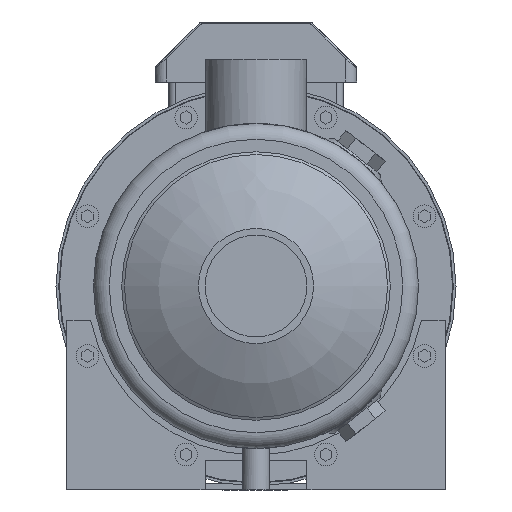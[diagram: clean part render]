
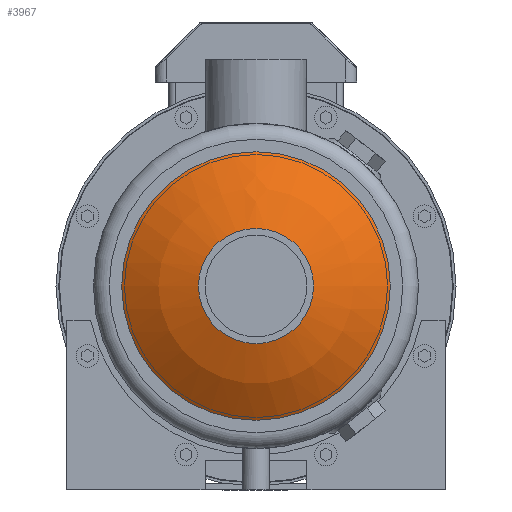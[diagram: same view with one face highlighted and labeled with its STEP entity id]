
A CAD part, left-side view. The second image highlights one B-rep face of the part: STEP entity #3967.
In plain terms, the highlighted spherical face has radius 100 mm.
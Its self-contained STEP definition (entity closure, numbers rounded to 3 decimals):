
#63=SPHERICAL_SURFACE('',#5364,100.);
#917=ORIENTED_EDGE('',*,*,#1982,.T.);
#918=ORIENTED_EDGE('',*,*,#1981,.F.);
#1981=EDGE_CURVE('',#2518,#2518,#2886,.T.);
#1982=EDGE_CURVE('',#2519,#2519,#2887,.T.);
#2518=VERTEX_POINT('',#7174);
#2519=VERTEX_POINT('',#7177);
#2886=CIRCLE('',#5363,25.4);
#2887=CIRCLE('',#5365,59.25);
#3066=EDGE_LOOP('',(#917));
#3067=EDGE_LOOP('',(#918));
#3445=FACE_BOUND('',#3066,.T.);
#3446=FACE_BOUND('',#3067,.T.);
#3967=ADVANCED_FACE('',(#3445,#3446),#63,.T.);
#5363=AXIS2_PLACEMENT_3D('',#7173,#5852,#5853);
#5364=AXIS2_PLACEMENT_3D('',#7175,#5854,#5855);
#5365=AXIS2_PLACEMENT_3D('',#7176,#5856,#5857);
#5852=DIRECTION('',(-1.,0.,0.));
#5853=DIRECTION('',(0.,0.,1.));
#5854=DIRECTION('',(-1.,0.,0.));
#5855=DIRECTION('',(0.,0.,1.));
#5856=DIRECTION('',(-1.,0.,0.));
#5857=DIRECTION('',(0.,0.,1.));
#7173=CARTESIAN_POINT('',(-142.02,0.,0.));
#7174=CARTESIAN_POINT('',(-142.02,0.,25.4));
#7175=CARTESIAN_POINT('',(-45.3,0.,0.));
#7176=CARTESIAN_POINT('',(-125.857,0.,0.));
#7177=CARTESIAN_POINT('',(-125.857,0.,59.25));
